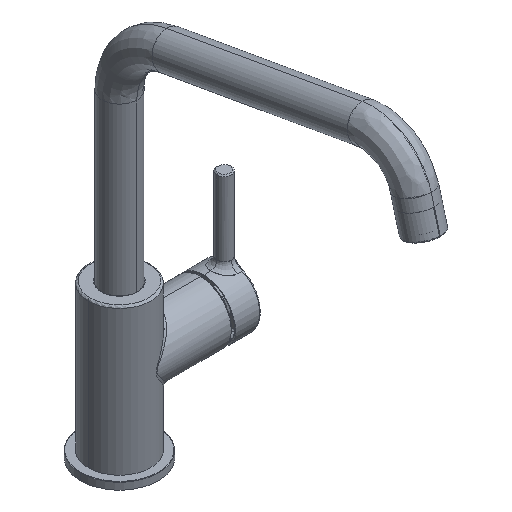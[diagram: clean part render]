
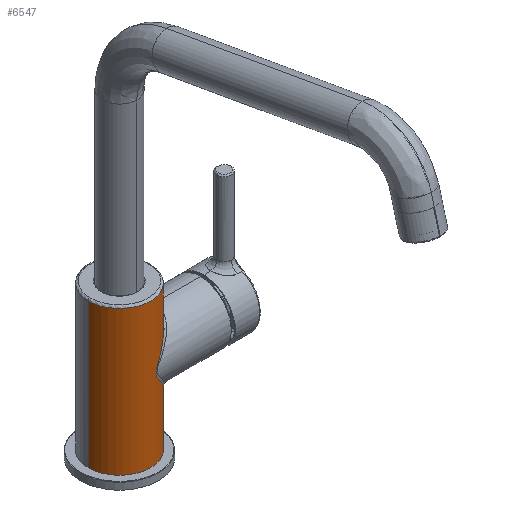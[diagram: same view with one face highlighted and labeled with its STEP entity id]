
A CAD part, isometric view. The second image highlights one B-rep face of the part: STEP entity #6547.
In plain terms, the highlighted cylindrical face has radius 21.5 mm (diameter 43 mm), a partial arc.
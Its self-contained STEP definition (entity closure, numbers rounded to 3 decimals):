
#1709=TRIMMED_CURVE($,#3222,(#124154),(#124155),.T.,.CARTESIAN.);
#1710=TRIMMED_CURVE($,#3223,(#124159),(#124160),.T.,.CARTESIAN.);
#3222=CIRCLE('',#38266,21.5);
#3223=CIRCLE('',#38267,21.5);
#4429=CYLINDRICAL_SURFACE('',#38189,21.5);
#6547=ADVANCED_FACE('',(#8615),#4429,.T.);
#8615=FACE_OUTER_BOUND('',#10769,.T.);
#10769=EDGE_LOOP('',(#20838,#20839,#20840,#20841,#20842,#20843));
#20838=ORIENTED_EDGE('',*,*,#26545,.T.);
#20839=ORIENTED_EDGE('',*,*,#26548,.T.);
#20840=ORIENTED_EDGE('',*,*,#26547,.T.);
#20841=ORIENTED_EDGE('',*,*,#26546,.T.);
#20842=ORIENTED_EDGE('',*,*,#26884,.T.);
#20843=ORIENTED_EDGE('',*,*,#26557,.T.);
#26545=EDGE_CURVE('',#33592,#33593,#1709,.T.);
#26546=EDGE_CURVE('',#33589,#33595,#30268,.T.);
#26547=EDGE_CURVE('',#33588,#33589,#1710,.T.);
#26548=EDGE_CURVE('',#33593,#33588,#30269,.T.);
#26557=EDGE_CURVE('',#33594,#33592,#30270,.T.);
#26884=EDGE_CURVE('',#33595,#33594,#30436,.T.);
#30268=B_SPLINE_CURVE_WITH_KNOTS('',1,(#124156,#124157),.UNSPECIFIED.,.F.,
 .F.,(2,2),(-30.5,0.),.UNSPECIFIED.);
#30269=B_SPLINE_CURVE_WITH_KNOTS('',1,(#124161,#124162),.UNSPECIFIED.,.F.,
 .F.,(2,2),(-99.7,0.),.UNSPECIFIED.);
#30270=B_SPLINE_CURVE_WITH_KNOTS('',1,(#124187,#124188),.UNSPECIFIED.,.F.,
 .F.,(2,2),(0.,21.2),.UNSPECIFIED.);
#30436=B_SPLINE_CURVE_WITH_KNOTS('',3,(#125616,#125617,#125618,#125619,
#125620,#125621,#125622,#125623,#125624,#125625,#125626,#125627,#125628,
#125629,#125630,#125631,#125632,#125633,#125634,#125635,#125636,#125637,
#125638,#125639,#125640,#125641,#125642,#125643,#125644,#125645,#125646,
#125647,#125648,#125649,#125650,#125651,#125652,#125653),.UNSPECIFIED.,
 .F.,.F.,(4,1,1,1,1,1,1,1,1,1,1,1,1,1,1,1,1,1,1,1,1,1,1,1,1,1,1,1,1,1,1,
1,1,1,1,4),(0.,2.293,4.585,6.878,9.17,
11.463,13.755,16.048,18.34,20.633,
22.925,25.218,27.51,29.803,32.095,
34.388,36.681,38.973,41.266,43.558,
45.851,48.143,50.436,52.728,55.021,
57.313,59.606,61.898,64.191,66.484,
68.776,71.069,73.361,75.654,77.946,
80.239),.UNSPECIFIED.);
#33588=VERTEX_POINT('',#123950);
#33589=VERTEX_POINT('',#123951);
#33592=VERTEX_POINT('',#123954);
#33593=VERTEX_POINT('',#123955);
#33594=VERTEX_POINT('',#123956);
#33595=VERTEX_POINT('',#123957);
#38189=AXIS2_PLACEMENT_3D('',#120364,#42419,$);
#38266=AXIS2_PLACEMENT_3D($,#124153,#42496,#42497);
#38267=AXIS2_PLACEMENT_3D($,#124158,#42498,#42499);
#42419=DIRECTION('',(0.,1.,0.));
#42496=DIRECTION('',(0.,-1.,0.));
#42497=DIRECTION('',(1.,0.,0.));
#42498=DIRECTION('',(0.,1.,0.));
#42499=DIRECTION('',(-1.,0.,0.));
#120364=CARTESIAN_POINT('',(0.,49.85,0.));
#123950=CARTESIAN_POINT('',(-21.5,0.,0.));
#123951=CARTESIAN_POINT('',(21.5,0.,0.));
#123954=CARTESIAN_POINT('',(21.5,99.7,0.));
#123955=CARTESIAN_POINT('',(-21.5,99.7,0.));
#123956=CARTESIAN_POINT('',(21.5,78.5,0.));
#123957=CARTESIAN_POINT('',(21.5,30.5,0.));
#124153=CARTESIAN_POINT('',(0.,99.7,0.));
#124154=CARTESIAN_POINT('',(21.5,99.7,0.));
#124155=CARTESIAN_POINT('',(-21.5,99.7,0.));
#124156=CARTESIAN_POINT('',(21.5,0.,0.));
#124157=CARTESIAN_POINT('',(21.5,30.5,0.));
#124158=CARTESIAN_POINT('',(0.,0.,0.));
#124159=CARTESIAN_POINT('',(-21.5,0.,0.));
#124160=CARTESIAN_POINT('',(21.5,0.,0.));
#124161=CARTESIAN_POINT('',(-21.5,99.7,0.));
#124162=CARTESIAN_POINT('',(-21.5,0.,0.));
#124187=CARTESIAN_POINT('',(21.5,78.5,0.));
#124188=CARTESIAN_POINT('',(21.5,99.7,0.));
#125616=CARTESIAN_POINT('',(21.5,30.5,0.));
#125617=CARTESIAN_POINT('',(21.5,30.5,0.85));
#125618=CARTESIAN_POINT('',(21.399,30.618,2.575));
#125619=CARTESIAN_POINT('',(20.924,31.17,5.184));
#125620=CARTESIAN_POINT('',(20.092,32.14,7.822));
#125621=CARTESIAN_POINT('',(18.869,33.568,10.461));
#125622=CARTESIAN_POINT('',(17.125,35.614,13.114));
#125623=CARTESIAN_POINT('',(15.354,37.708,15.112));
#125624=CARTESIAN_POINT('',(13.728,39.648,16.589));
#125625=CARTESIAN_POINT('',(12.181,41.517,17.746));
#125626=CARTESIAN_POINT('',(10.778,43.241,18.624));
#125627=CARTESIAN_POINT('',(9.512,44.836,19.297));
#125628=CARTESIAN_POINT('',(8.367,46.324,19.817));
#125629=CARTESIAN_POINT('',(7.322,47.748,20.224));
#125630=CARTESIAN_POINT('',(6.391,49.111,20.535));
#125631=CARTESIAN_POINT('',(5.608,50.39,20.76));
#125632=CARTESIAN_POINT('',(4.973,51.632,20.92));
#125633=CARTESIAN_POINT('',(4.535,52.812,21.017));
#125634=CARTESIAN_POINT('',(4.318,53.914,21.062));
#125635=CARTESIAN_POINT('',(4.308,54.986,21.064));
#125636=CARTESIAN_POINT('',(4.509,56.095,21.023));
#125637=CARTESIAN_POINT('',(4.934,57.283,20.928));
#125638=CARTESIAN_POINT('',(5.565,58.535,20.772));
#125639=CARTESIAN_POINT('',(6.346,59.821,20.549));
#125640=CARTESIAN_POINT('',(7.279,61.192,20.239));
#125641=CARTESIAN_POINT('',(8.327,62.623,19.834));
#125642=CARTESIAN_POINT('',(9.475,64.117,19.315));
#125643=CARTESIAN_POINT('',(10.746,65.719,18.643));
#125644=CARTESIAN_POINT('',(12.155,67.451,17.765));
#125645=CARTESIAN_POINT('',(13.709,69.33,16.605));
#125646=CARTESIAN_POINT('',(15.343,71.28,15.124));
#125647=CARTESIAN_POINT('',(17.128,73.389,13.112));
#125648=CARTESIAN_POINT('',(18.872,75.435,10.455));
#125649=CARTESIAN_POINT('',(20.092,76.86,7.822));
#125650=CARTESIAN_POINT('',(20.924,77.83,5.184));
#125651=CARTESIAN_POINT('',(21.399,78.382,2.574));
#125652=CARTESIAN_POINT('',(21.5,78.5,0.849));
#125653=CARTESIAN_POINT('',(21.5,78.5,0.));
